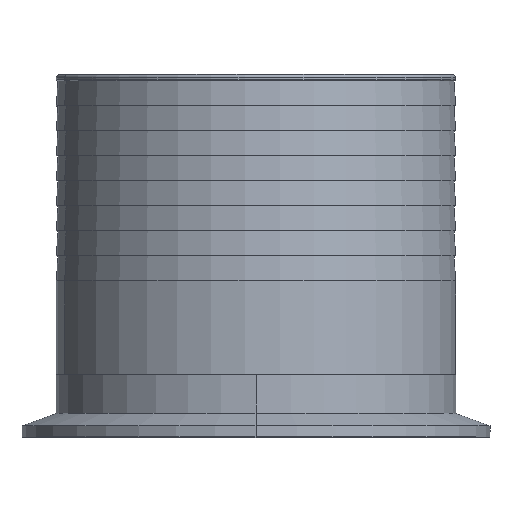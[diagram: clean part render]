
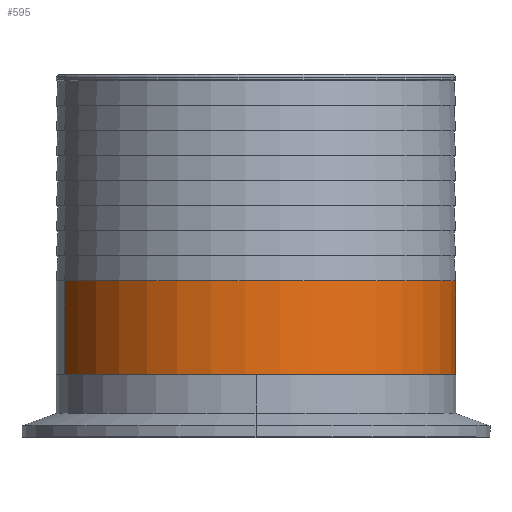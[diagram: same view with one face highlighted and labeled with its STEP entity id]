
A CAD part, top view. The second image highlights one B-rep face of the part: STEP entity #595.
In plain terms, the highlighted cylindrical face has radius 50.8 mm (diameter 101.6 mm), a partial arc.
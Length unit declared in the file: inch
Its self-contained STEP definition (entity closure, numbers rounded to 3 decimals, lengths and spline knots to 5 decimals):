
#42 = VERTEX_POINT ( 'NONE', #372 ) ;
#94 = ORIENTED_EDGE ( 'NONE', *, *, #1642, .F. ) ;
#152 = CARTESIAN_POINT ( 'NONE',  ( 0., 0., 0. ) ) ;
#200 = VERTEX_POINT ( 'NONE', #621 ) ;
#224 = CARTESIAN_POINT ( 'NONE',  ( 0., 0., -2. ) ) ;
#235 = DIRECTION ( 'NONE',  ( 1., 0., 0. ) ) ;
#263 = EDGE_CURVE ( 'NONE', #1448, #200, #1633, .T. ) ;
#265 = DIRECTION ( 'NONE',  ( 0., 0., -1. ) ) ;
#278 = EDGE_LOOP ( 'NONE', ( #94, #359, #402, #1183 ) ) ;
#284 = CARTESIAN_POINT ( 'NONE',  ( -0.938, 0., 0. ) ) ;
#359 = ORIENTED_EDGE ( 'NONE', *, *, #695, .T. ) ;
#372 = CARTESIAN_POINT ( 'NONE',  ( -0.938, 0., 2. ) ) ;
#402 = ORIENTED_EDGE ( 'NONE', *, *, #263, .T. ) ;
#415 = DIRECTION ( 'NONE',  ( 0., 0., -1. ) ) ;
#450 = VECTOR ( 'NONE', #554, 39.37008 ) ;
#475 = DIRECTION ( 'NONE',  ( 1., 0., 0. ) ) ;
#521 = LINE ( 'NONE', #559, #450 ) ;
#554 = DIRECTION ( 'NONE',  ( 1., 0., 0. ) ) ;
#559 = CARTESIAN_POINT ( 'NONE',  ( 0., 0., 2. ) ) ;
#577 = CIRCLE ( 'NONE', #644, 2. ) ;
#595 = ADVANCED_FACE ( 'NONE', ( #1352 ), #1233, .T. ) ;
#621 = CARTESIAN_POINT ( 'NONE',  ( 0., 0., -2. ) ) ;
#644 = AXIS2_PLACEMENT_3D ( 'NONE', #1030, #235, #1175 ) ;
#695 = EDGE_CURVE ( 'NONE', #42, #1448, #1194, .T. ) ;
#1030 = CARTESIAN_POINT ( 'NONE',  ( 0., 0., 0. ) ) ;
#1087 = VERTEX_POINT ( 'NONE', #1144 ) ;
#1144 = CARTESIAN_POINT ( 'NONE',  ( 0., 0., 2. ) ) ;
#1150 = AXIS2_PLACEMENT_3D ( 'NONE', #284, #1364, #415 ) ;
#1175 = DIRECTION ( 'NONE',  ( 0., 0., -1. ) ) ;
#1183 = ORIENTED_EDGE ( 'NONE', *, *, #1577, .F. ) ;
#1194 = CIRCLE ( 'NONE', #1150, 2. ) ;
#1205 = AXIS2_PLACEMENT_3D ( 'NONE', #152, #1353, #265 ) ;
#1233 = CYLINDRICAL_SURFACE ( 'NONE', #1205, 2. ) ;
#1352 = FACE_OUTER_BOUND ( 'NONE', #278, .T. ) ;
#1353 = DIRECTION ( 'NONE',  ( 1., 0., 0. ) ) ;
#1364 = DIRECTION ( 'NONE',  ( 1., 0., 0. ) ) ;
#1448 = VERTEX_POINT ( 'NONE', #1553 ) ;
#1553 = CARTESIAN_POINT ( 'NONE',  ( -0.938, 0., -2. ) ) ;
#1561 = VECTOR ( 'NONE', #475, 39.37008 ) ;
#1577 = EDGE_CURVE ( 'NONE', #1087, #200, #577, .T. ) ;
#1633 = LINE ( 'NONE', #224, #1561 ) ;
#1642 = EDGE_CURVE ( 'NONE', #42, #1087, #521, .T. ) ;
